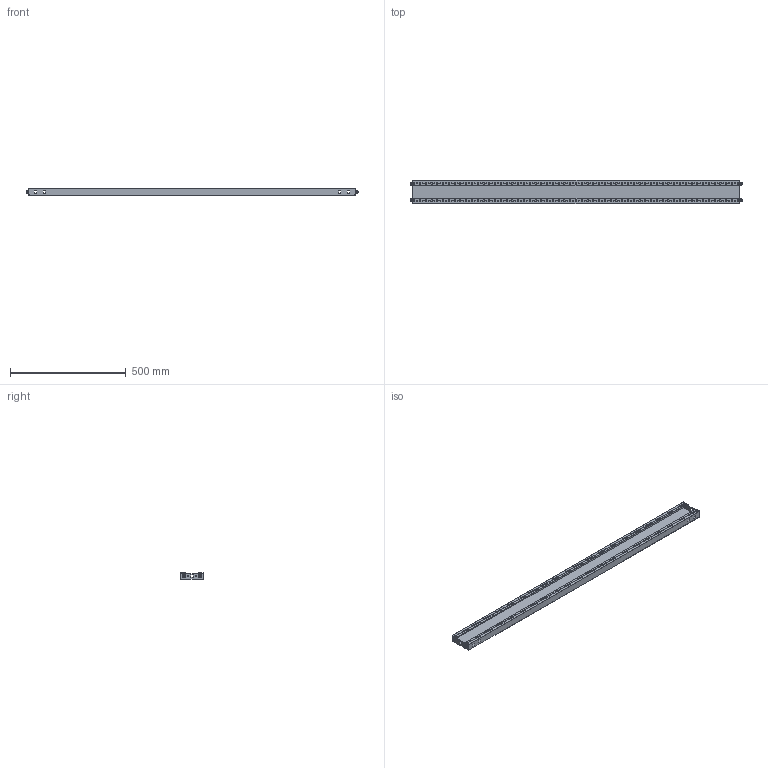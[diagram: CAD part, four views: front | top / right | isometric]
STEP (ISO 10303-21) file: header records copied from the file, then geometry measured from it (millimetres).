
FILE_DESCRIPTION(('Open CASCADE Model'),'2;1');
FILE_NAME('Open CASCADE Shape Model','2025-02-27T11:01:20',('Author'),( 'Open CASCADE'),'Open CASCADE STEP processor 7.8','Open CASCADE 7.8' ,'Unknown');
FILE_SCHEMA(('AUTOMOTIVE_DESIGN { 1 0 10303 214 1 1 1 1 }'));
Length unit declared in the file: millimetre
Products named in the file (5): Compound1; Solid1; Solid2; Solid3; Solid4
Assembly tree (13 placements, depth 2):
  Compound1
    Solid1
    Solid2  x4
    Solid3  x4
    Solid4  x4
Bounding box: 1436.2 x 100 x 30 mm (x, y, z)
Volume: 426881.8 mm3; surface area: 580369.3 mm2
Topology: 13 solids, 13 shells, 860 faces, 2682 edges, 1844 vertices
Faces by surface type: cylinder 438, plane 398, cone 16, torus 8
Full cylindrical faces by diameter (mm): 4.2 x112, 4.917 x4, 5.5 x4, 6 x4, 6.4 x4, 6.5 x114, 6.6 x4, 10 x4, 12 x4
Entity records: 18966 total; most frequent: CARTESIAN_POINT 3700, ORIENTED_EDGE 3184, DIRECTION 3044, EDGE_CURVE 1592, AXIS2_PLACEMENT_3D 1265, VERTEX_POINT 1133, FACE_BOUND 963, EDGE_LOOP 963
